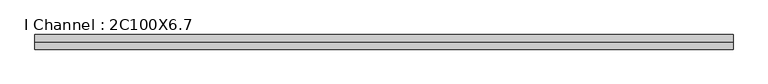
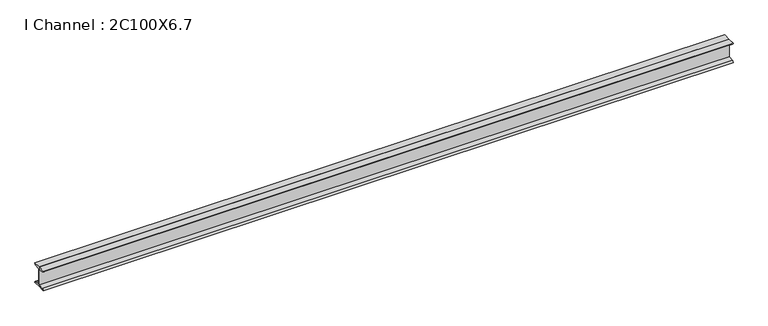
"""IFC4 building model written with IfcOpenShell, lengths in millimetres: beam geometry, I Channel : 2C100X6.7."""

from ifc_helpers import new_model, si_unit, point, frame, frame_2d, origin, place, context, project, spatial, polyline, circle_curve, trimmed, segment, composite_curve, outline, extrude, source, transform, mapped, element, save


def i_channel_2c100x6_7_d020ab85(model_context):
    return source(origin(), model_context, "Body", "SweptSolid", [
        extrude(outline(composite_curve([segment(polyline([(0.0, 48.5), (34.0, 48.5)]), True, "CONTINUOUS"), segment(trimmed(circle_curve(frame_2d((26.5, 48.5)), 7.5), [point((34.0, 48.5))], [point((26.5, 41.0))], False, "CARTESIAN"), True, "CONTINUOUS"), segment(polyline([(26.5, 41.0), (3.2, 37.3096425), (3.2, -37.3096425), (26.5, -41.0)]), True, "CONTINUOUS"), segment(trimmed(circle_curve(frame_2d((26.5, -48.5)), 7.5), [point((26.5, -41.0))], [point((34.0, -48.5))], False, "CARTESIAN"), True, "CONTINUOUS"), segment(polyline([(34.0, -48.5), (0.0, -48.5), (0.0, 48.5)]), True, "CONTINUOUS")], self_intersect=False)), frame((-681.0030927, 0.0, 0.0), z_axis=(1.0, 0.0, 0.0), x_axis=(0.0, 1.0, 0.0)), (0.0, 0.0, 1.0), 3247.728),
        extrude(outline(composite_curve([segment(polyline([(0.0, 48.5), (0.0, -48.5), (-34.0, -48.5)]), True, "CONTINUOUS"), segment(trimmed(circle_curve(frame_2d((-26.5, -48.5)), 7.5), [point((-34.0, -48.5))], [point((-26.5, -41.0))], False, "CARTESIAN"), True, "CONTINUOUS"), segment(polyline([(-26.5, -41.0), (-3.2, -37.3096425), (-3.2, 37.3096425), (-26.5, 41.0)]), True, "CONTINUOUS"), segment(trimmed(circle_curve(frame_2d((-26.5, 48.5)), 7.5), [point((-26.5, 41.0))], [point((-34.0, 48.5))], False, "CARTESIAN"), True, "CONTINUOUS"), segment(polyline([(-34.0, 48.5), (0.0, 48.5)]), True, "CONTINUOUS")], self_intersect=False)), frame((-681.0030927, 0.0, 0.0), z_axis=(1.0, 0.0, 0.0), x_axis=(0.0, 1.0, 0.0)), (0.0, 0.0, 1.0), 3247.728),
    ])


if __name__ == "__main__":
    model = new_model("IFC4")
    model_context = context("Model", 3, world=origin())
    ifc_project = project(units=[si_unit("LENGTHUNIT", "METRE", prefix="MILLI")], contexts=[model_context])
    site = spatial("IfcSite", under=ifc_project)
    building = spatial("IfcBuilding", under=site)
    placement = place(None, origin())
    i_channel_2c100x6_7_shape = i_channel_2c100x6_7_d020ab85(model_context)
    element("IfcBeam", 1, ObjectType="I Channel : 2C100X6.7", at=placement, inside=building, context=model_context, shape_type="MappedRepresentation", body=[
        mapped(i_channel_2c100x6_7_shape, transform((0.0, 0.0, 0.0), x_axis=(1.0, 0.0, 0.0), y_axis=(0.0, 1.0, 0.0), z_axis=(0.0, 0.0, 1.0))),
    ])
    save(model, "model.ifc")
